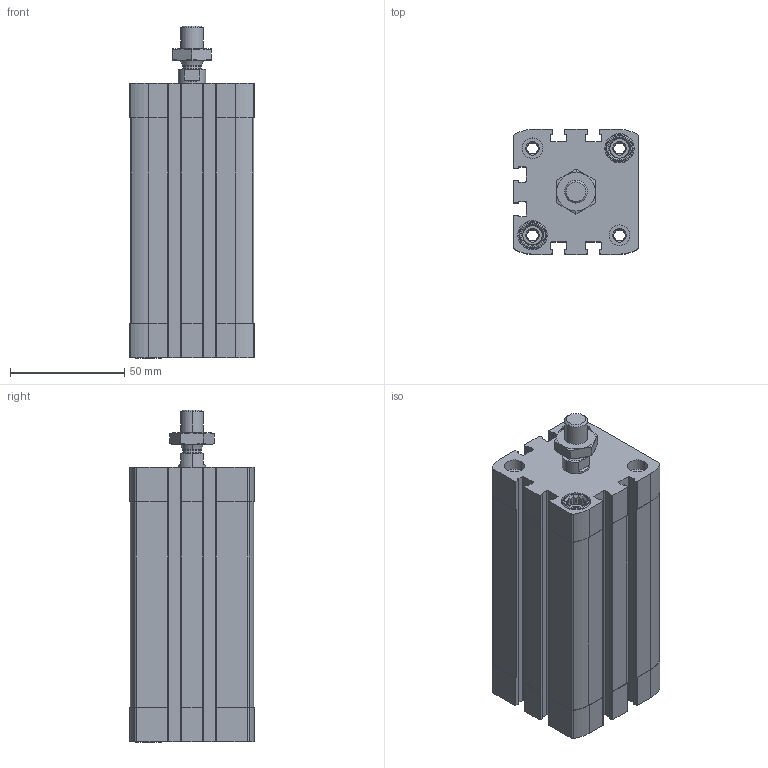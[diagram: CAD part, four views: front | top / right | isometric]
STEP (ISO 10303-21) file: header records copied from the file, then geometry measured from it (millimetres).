
FILE_DESCRIPTION (( 'STEP AP203' ), '1' );
FILE_NAME ('CCN40-75M.STEP', '2017-04-03T11:30:53', ( '' ), ( '' ), 'SwSTEP 2.0', 'SolidWorks 2016', '' );
FILE_SCHEMA (( 'CONFIG_CONTROL_DESIGN' ));
Length unit declared in the file: millimetre
Products named in the file (4): CCN-75---(Z); CCN-75_(KS); _DIN-439-B - M10x1.25(F); CCN40-75M
Assembly tree (3 placements, depth 2):
  CCN40-75M
    CCN-75---(Z)
    CCN-75_(KS)
    _DIN-439-B - M10x1.25(F)
Bounding box: 54.5 x 54.5 x 145.1 mm (x, y, z)
Volume: 226055.9 mm3; surface area: 73671.4 mm2
Topology: 3 solids, 3 shells, 499 faces, 1338 edges, 876 vertices
Faces by surface type: plane 275, cylinder 172, cone 48, bspline 4
Entity records: 16286 total; most frequent: CARTESIAN_POINT 3127, DIRECTION 2728, ORIENTED_EDGE 2676, EDGE_CURVE 1338, AXIS2_PLACEMENT_3D 1001, VERTEX_POINT 876, VECTOR 726, LINE 726
